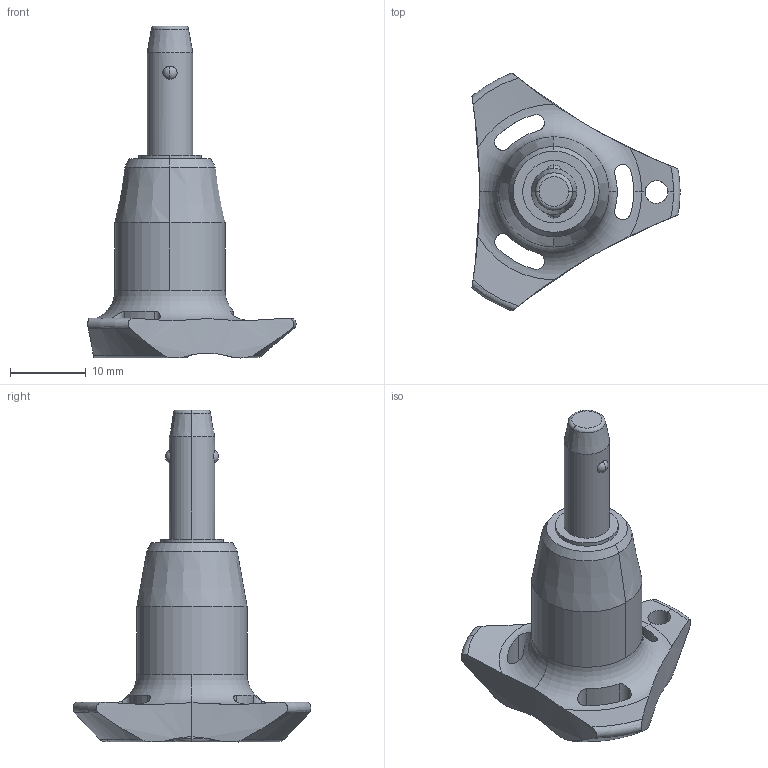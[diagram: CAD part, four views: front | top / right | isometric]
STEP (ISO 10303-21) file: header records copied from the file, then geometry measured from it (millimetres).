
FILE_DESCRIPTION (( 'STEP AP203' ), '1' );
FILE_NAME ('QR1724.M06-010-S.step', '2025-11-12T12:44:38', ( '' ), ( '' ), 'SwSTEP 2.0', 'SolidWorks 2019', '' );
FILE_SCHEMA (( 'CONFIG_CONTROL_DESIGN' ));
Length unit declared in the file: millimetre
Products named in the file (1): QR1724.M06-010-S
Bounding box: 27.4 x 31.31 x 43.7 mm (x, y, z)
Volume: 5248.8 mm3; surface area: 2741.3 mm2
Topology: 1 solids, 1 shells, 66 faces, 183 edges, 117 vertices
Faces by surface type: cylinder 30, cone 14, torus 12, sphere 6, plane 4
Entity records: 2729 total; most frequent: CARTESIAN_POINT 1001, ORIENTED_EDGE 366, DIRECTION 336, EDGE_CURVE 183, AXIS2_PLACEMENT_3D 150, VERTEX_POINT 117, CIRCLE 83, EDGE_LOOP 72
